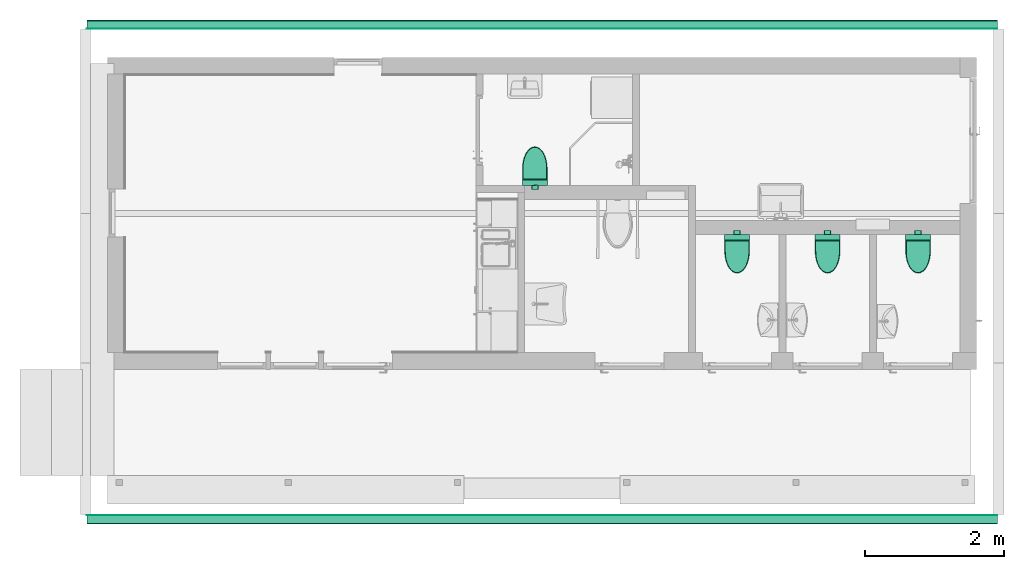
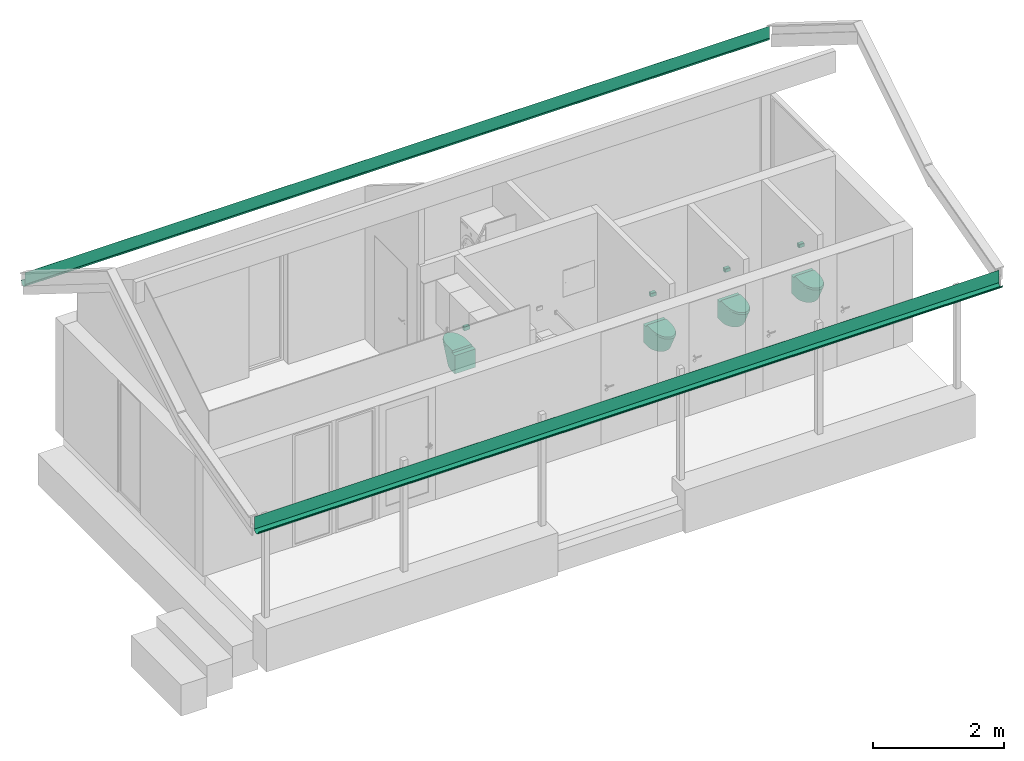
# One storey, part 9 of 15: 4 flow terminals, 2 flow segments.
"""IFC2X3 building model written with IfcOpenShell, lengths in millimetres."""

from ifc_helpers import new_model, entity, si_unit, converted_unit, direction, frame, frame_2d, origin, place, context, subcontext, project, spatial, polyline, circle_curve, parameter, trimmed, segment, composite_curve, rectangle, outline, extrude, faceted_brep, source, transform, mapped, material, material_list, type_object, type_shapes, element, save


model = new_model("IFC2X3")

# Units and contexts
model_context = context("Model", 3, precision=0.01, world=origin(), true_north=direction((0.0, 1.0)))
body_context = subcontext(model_context, "Body", "Model", "MODEL_VIEW")
ifc_project = project(units=[si_unit("LENGTHUNIT", "METRE", prefix="MILLI"), si_unit("AREAUNIT", "SQUARE_METRE"), si_unit("VOLUMEUNIT", "CUBIC_METRE"), converted_unit("PLANEANGLEUNIT", "DEGREE", entity("IfcPlaneAngleMeasure", 0.017453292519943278), si_unit("PLANEANGLEUNIT", "RADIAN"), dimensions=[0, 0, 0, 0, 0, 0, 0])], contexts=[model_context])

# Site, building, storey
site_placement = place(None, origin())
site = spatial("IfcSite", under=ifc_project, at=site_placement, Name="Default", CompositionType="ELEMENT")
building_placement = place(site_placement, origin())
building = spatial("IfcBuilding", under=site, at=building_placement, CompositionType="ELEMENT")
storey_placement = place(building_placement, origin())
storey = spatial("IfcBuildingStorey", under=building, at=storey_placement, Name="Et. 1", CompositionType="ELEMENT", Elevation=0.0)

# Flow segments
pipe_segment_type_1 = type_object("IfcPipeSegmentType", Name="Gutter:Takrenne", PredefinedType="GUTTER")
flow_segment_1_placement = place(storey_placement, origin())
element("IfcFlowSegment", 1, at=flow_segment_1_placement, inside=storey, type_object=pipe_segment_type_1, Name="Gutter:Takrenne", context=body_context, shape_type="SweptSolid", body=[
    extrude(outline(composite_curve([segment(trimmed(circle_curve(frame_2d((-72.8778582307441, -1.8825237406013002), x_axis=(1.0, 0.0)), 2.4999999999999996), [parameter(179.99999999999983)], [parameter(331.64696247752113)], True, "PARAMETER"), True, "CONTINUOUS"), segment(polyline([(-70.67776292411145, -3.0697813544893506), (-68.70095687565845, 0.593418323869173)]), True, "CONTINUOUS"), segment(trimmed(circle_curve(frame_2d((-69.21160610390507, 0.5947011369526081), x_axis=(1.0, 0.0)), 0.5106508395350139), [parameter(359.8560663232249)], [parameter(123.43785863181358)], True, "PARAMETER"), True, "CONTINUOUS"), segment(polyline([(-69.49299118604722, 1.0208310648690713), (-71.4697972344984, -2.6423686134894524)]), True, "CONTINUOUS"), segment(trimmed(circle_curve(frame_2d((-72.8778582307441, -1.8825237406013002), x_axis=(1.0, 0.0)), 1.6), [parameter(180.00000000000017)], [parameter(331.6469624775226)], True, "PARAMETER"), False, "CONTINUOUS"), segment(trimmed(circle_curve(frame_2d((-12.877858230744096, -1.8825237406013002), x_axis=(1.0, 0.0)), 61.60000000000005), [parameter(0.03576087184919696)], [parameter(180.00000000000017)], True, "PARAMETER"), False, "CONTINUOUS"), segment(trimmed(circle_curve(frame_2d((55.37835431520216, -2.3957534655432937), x_axis=(1.0, 0.0)), 6.679047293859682), [parameter(175.2620759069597)], [parameter(84.87546030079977)], True, "PARAMETER"), True, "CONTINUOUS"), segment(trimmed(circle_curve(frame_2d((55.794272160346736, 2.3669582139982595), x_axis=(1.0, 0.0)), 1.8982552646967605), [parameter(84.53878456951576)], [parameter(215.5941888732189)], True, "PARAMETER"), True, "CONTINUOUS"), segment(polyline([(54.25068729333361, 1.2620967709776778), (55.0540746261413, 0.13969672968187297)]), True, "CONTINUOUS"), segment(trimmed(circle_curve(frame_2d((55.24204362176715, 0.5967964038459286), x_axis=(1.0, 0.0)), 0.494239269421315), [parameter(247.6465048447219)], [parameter(22.35349515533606)], True, "PARAMETER"), True, "CONTINUOUS"), segment(polyline([(55.69914329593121, 0.7847653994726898), (54.98253111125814, 1.7859332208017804)]), True, "CONTINUOUS"), segment(trimmed(circle_curve(frame_2d((55.794272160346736, 2.3669582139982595), x_axis=(1.0, 0.0)), 0.9982552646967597), [parameter(84.40581112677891)], [parameter(215.59418887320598)], True, "PARAMETER"), False, "CONTINUOUS"), segment(trimmed(circle_curve(frame_2d((55.37835431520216, -2.3957534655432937), x_axis=(1.0, 0.0)), 5.77904729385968), [parameter(174.9049233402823)], [parameter(84.90492334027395)], True, "PARAMETER"), False, "CONTINUOUS"), segment(trimmed(circle_curve(frame_2d((-12.877858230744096, -1.8825237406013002), x_axis=(1.0, 0.0)), 62.500000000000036), [parameter(2.544443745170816e-13)], [parameter(180.00000000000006)], True, "PARAMETER"), True, "CONTINUOUS")], self_intersect=False)), frame((11010.567419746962, 9451.912403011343, 2269.405853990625), z_axis=(1.0, 0.0, 0.0), x_axis=(0.0, -1.0, 0.0)), (0.0, 0.0, 1.0), 13080.000000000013),
    extrude(outline(composite_curve([segment(trimmed(circle_curve(frame_2d((-12.877858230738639, 1.8825237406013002), x_axis=(1.0, 0.0)), 62.500000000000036), [parameter(179.9999999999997)], [parameter(0.0)], True, "PARAMETER"), True, "CONTINUOUS"), segment(trimmed(circle_curve(frame_2d((55.3783543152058, 2.395753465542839), x_axis=(1.0, 0.0)), 5.77904729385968), [parameter(275.09507665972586)], [parameter(185.09507665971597)], True, "PARAMETER"), False, "CONTINUOUS"), segment(trimmed(circle_curve(frame_2d((55.794272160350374, -2.366958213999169), x_axis=(1.0, 0.0)), 0.9982552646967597), [parameter(144.40581112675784)], [parameter(275.594188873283)], True, "PARAMETER"), False, "CONTINUOUS"), segment(polyline([(54.98253111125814, -1.78593322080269), (55.69914329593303, -0.7847653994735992)]), True, "CONTINUOUS"), segment(trimmed(circle_curve(frame_2d((55.24204362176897, -0.5967964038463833), x_axis=(1.0, 0.0)), 0.494239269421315), [parameter(337.6465048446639)], [parameter(112.35349515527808)], True, "PARAMETER"), True, "CONTINUOUS"), segment(polyline([(55.05407462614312, -0.1396967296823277), (54.25068729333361, -1.2620967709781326)]), True, "CONTINUOUS"), segment(trimmed(circle_curve(frame_2d((55.794272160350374, -2.366958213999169), x_axis=(1.0, 0.0)), 1.8982552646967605), [parameter(144.40581112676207)], [parameter(275.4612154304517)], True, "PARAMETER"), True, "CONTINUOUS"), segment(trimmed(circle_curve(frame_2d((55.3783543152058, 2.395753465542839), x_axis=(1.0, 0.0)), 6.679047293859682), [parameter(275.1245396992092)], [parameter(184.7379240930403)], True, "PARAMETER"), True, "CONTINUOUS"), segment(trimmed(circle_curve(frame_2d((-12.877858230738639, 1.8825237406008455), x_axis=(1.0, 0.0)), 61.60000000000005), [parameter(179.99999999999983)], [parameter(359.96423912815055)], True, "PARAMETER"), False, "CONTINUOUS"), segment(trimmed(circle_curve(frame_2d((-72.87785823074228, 1.8825237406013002), x_axis=(1.0, 0.0)), 1.6), [parameter(28.353037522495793)], [parameter(179.99999999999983)], True, "PARAMETER"), False, "CONTINUOUS"), segment(polyline([(-71.46979723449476, 2.6423686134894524), (-69.4929911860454, -1.020831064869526)]), True, "CONTINUOUS"), segment(trimmed(circle_curve(frame_2d((-69.21160610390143, -0.5947011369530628), x_axis=(1.0, 0.0)), 0.5106508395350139), [parameter(236.56214136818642)], [parameter(0.14393367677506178)], True, "PARAMETER"), True, "CONTINUOUS"), segment(polyline([(-68.70095687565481, -0.593418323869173), (-70.67776292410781, 3.069781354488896)]), True, "CONTINUOUS"), segment(trimmed(circle_curve(frame_2d((-72.87785823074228, 1.8825237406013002), x_axis=(1.0, 0.0)), 2.4999999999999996), [parameter(28.35303752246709)], [parameter(180.00000000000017)], True, "PARAMETER"), True, "CONTINUOUS")], self_intersect=False)), frame((11010.567419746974, 16569.468119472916, 2566.9232565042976), z_axis=(1.0, 0.0, 0.0), x_axis=(0.0, 1.0, 0.0)), (0.0, 0.0, 1.0), 13080.000000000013),
])
pipe_segment_type_2 = type_object("IfcPipeSegmentType", Name="Gutter:Takrenne beslag", PredefinedType="GUTTER")
flow_segment_2_placement = place(storey_placement, origin())
element("IfcFlowSegment", 2, at=flow_segment_2_placement, inside=storey, type_object=pipe_segment_type_2, Name="Gutter:Takrenne beslag", context=body_context, shape_type="SweptSolid", body=[
    extrude(rectangle(XDim=13080.000000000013, YDim=0.9999999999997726, at=frame_2d((-9.094947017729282e-13, 1.082883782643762e-12), x_axis=(1.0, 0.0))), frame((17550.567419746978, 16503.690261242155, 2558.8057802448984), z_axis=(0.0, 0.0, 1.0), x_axis=(-1.0, 0.0, 0.0)), (0.0, 0.0, 1.0), 230.00000000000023),
    extrude(rectangle(XDim=13080.000000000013, YDim=0.9999999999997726, at=frame_2d((-9.094947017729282e-13, 0.0), x_axis=(1.0, 0.0))), frame((17550.567419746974, 9517.690261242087, 2261.2883777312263)), (0.0, 0.0, 1.0), 229.99999999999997),
])

# Space
space_1_placement = place(storey_placement, frame((16700.567419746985, 14253.190261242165, 0.0)))
space_1 = spatial("IfcSpace", under=storey, at=space_1_placement, Name="106", CompositionType="ELEMENT", InteriorOrExteriorSpace="INTERNAL")

# Flow terminal
ifc_material_1 = material(Name="Focus - VVS - Toalett  lokk")
ifc_material_2 = material(Name="Focus - VVS - Krom")
ifc_material_3 = material(Name="Focus - VVS - Toalett")
ifc_material_list = material_list([ifc_material_1, ifc_material_2, ifc_material_3])
distribution_element_type = type_object("IfcDistributionElementType", Name="Focus-Toalett Veggmontert 2:Sittehøyde 420", material=ifc_material_list)
shared_shape = source(origin(), body_context, "Body", "Brep", [
    faceted_brep([(158.16535474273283, 581.4400283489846, 450.0), (125.0, 587.204444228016, 450.0), (91.83464525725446, 581.4400283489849, 450.0), (59.94381649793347, 564.3683039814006, 450.0), (30.553060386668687, 536.6453279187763, 450.0), (4.791847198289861, 499.33647858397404, 450.0), (-16.349834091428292, 453.87551413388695, 450.0), (-32.05952052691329, 402.0094739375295, 450.0), (-41.73349766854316, 345.7315408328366, 450.0), (-45.0, 287.2044442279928, 450.0), (-45.0, 142.20444422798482, 450.0), (-42.071067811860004, 135.13337641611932, 450.0), (-35.0, 132.2044442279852, 450.0), (285.0, 132.20444422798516, 450.0), (292.0710678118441, 135.13337641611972, 450.0), (295.0, 142.2044442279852, 450.0), (295.0, 287.2044442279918, 450.0), (291.7334976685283, 345.7315408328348, 450.0), (282.0595205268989, 402.0094739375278, 450.0), (266.3498340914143, 453.8755141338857, 450.0), (245.20815280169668, 499.33647858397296, 450.0), (219.4469396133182, 536.6453279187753, 450.0), (190.05618350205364, 564.3683039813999, 450.0), (89.88374203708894, 591.0557339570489, 420.0), (125.0, 597.2044442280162, 420.0), (160.1162579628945, 591.0557339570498, 420.0), (193.88301782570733, 572.8458946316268, 420.0), (225.0026419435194, 543.2747201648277, 420.0), (252.2792206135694, 503.4786142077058, 420.0), (274.664530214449, 454.9869187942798, 420.0), (291.2983158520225, 399.66314258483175, 420.0), (301.5413504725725, 339.63334727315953, 420.0), (305.0, 277.20444422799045, 420.0), (305.0, 127.20444422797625, 420.0), (302.07106781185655, 120.13337641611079, 420.0), (295.0, 117.20444422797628, 420.0), (-45.0, 117.20444422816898, 420.0), (-52.071067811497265, 120.13337641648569, 420.0), (-55.0, 127.2044442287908, 420.0), (-55.0, 277.2044442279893, 420.0), (-51.541350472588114, 339.6333472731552, 420.0), (-41.29831585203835, 399.66314258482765, 420.0), (-24.664530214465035, 454.9869187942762, 420.0), (-2.279220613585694, 503.47861420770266, 420.0), (24.997358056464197, 543.2747201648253, 420.0), (56.11698217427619, 572.8458946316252, 420.0), (-41.699246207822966, 122.15557491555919, 429.9022613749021), (291.69924657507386, 122.15557436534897, 429.9022602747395), (294.7934111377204, 125.92815815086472, 435.0000010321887), (298.2830911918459, 129.10173063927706, 435.0000000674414), (301.699246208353, 132.15557491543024, 429.9022613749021), (300.6984520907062, 281.50599213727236, 432.9046437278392), (236.01882322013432, 521.8376876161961, 434.9999986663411), (260.27682781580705, 478.86636708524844, 434.9999977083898), (142.15299996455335, 590.7117092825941, 435.00000042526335), (175.79981758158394, 578.8559490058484, 434.99999944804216), (292.4645603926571, 372.19269028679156, 434.999996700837), (207.4944277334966, 555.600037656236, 434.9999991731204), (279.33622102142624, 428.3374366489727, 434.9999966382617), (297.03312767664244, 339.04502990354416, 434.9999998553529), (42.50557073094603, 555.6000359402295, 434.9999998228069), (74.20018105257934, 578.8559481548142, 434.99999977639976), (13.981175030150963, 521.8376844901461, 434.9999998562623), (-42.464558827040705, 372.1926938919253, 434.9999999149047), (107.8469998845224, 590.7117094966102, 434.9999997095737), (-47.03312667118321, 339.04503901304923, 435.0000000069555), (-29.33622137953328, 428.3374323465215, 434.9999999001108), (-10.276829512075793, 478.86636202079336, 434.99999988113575), (-50.698452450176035, 281.50599177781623, 432.904642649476), (-51.699246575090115, 132.1555743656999, 429.90226027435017), (-48.77628624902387, 129.9110332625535, 435.0000010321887), (-45.60271359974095, 126.42135304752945, 435.0000000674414)], [[[0, 1, 2, 3, 4, 5, 6, 7, 8, 9, 10, 11, 12, 13, 14, 15, 16, 17, 18, 19, 20, 21, 22]], [[23, 24, 25, 26, 27, 28, 29, 30, 31, 32, 33, 34, 35, 36, 37, 38, 39, 40, 41, 42, 43, 44, 45]], [[13, 12, 46, 36, 35, 47]], [[34, 48, 35]], [[15, 49, 33, 50]], [[48, 13, 47, 35]], [[49, 14, 48]], [[49, 48, 34]], [[13, 48, 14]], [[33, 49, 34]], [[15, 14, 49]], [[32, 51, 16, 15, 50, 33]], [[52, 53, 28]], [[54, 55, 25]], [[31, 30, 56]], [[57, 52, 27]], [[29, 58, 30]], [[59, 31, 56]], [[57, 27, 26]], [[60, 61, 45]], [[52, 28, 27]], [[55, 54, 0]], [[53, 29, 28]], [[62, 60, 44]], [[4, 62, 5]], [[55, 26, 25]], [[55, 57, 26]], [[56, 58, 18]], [[2, 61, 3]], [[56, 18, 17]], [[56, 30, 58]], [[7, 63, 8]], [[56, 17, 59]], [[1, 0, 54]], [[53, 58, 29]], [[53, 19, 58]], [[52, 20, 53]], [[18, 58, 19]], [[51, 32, 59, 16]], [[57, 21, 52]], [[22, 57, 55]], [[32, 31, 59]], [[64, 54, 24]], [[63, 40, 65]], [[60, 45, 44]], [[1, 64, 2]], [[61, 23, 45]], [[62, 44, 43]], [[16, 59, 17]], [[41, 40, 63]], [[66, 67, 42]], [[66, 42, 41]], [[65, 8, 63]], [[67, 43, 42]], [[5, 67, 6]], [[39, 68, 9, 65]], [[9, 8, 65]], [[64, 61, 2]], [[3, 61, 60]], [[20, 52, 21]], [[64, 24, 23]], [[19, 53, 20]], [[1, 54, 64]], [[67, 62, 43]], [[63, 7, 66]], [[24, 54, 25]], [[62, 4, 60]], [[67, 5, 62]], [[3, 60, 4]], [[22, 55, 0]], [[66, 6, 67]], [[61, 64, 23]], [[21, 57, 22]], [[6, 66, 7]], [[39, 65, 40]], [[63, 66, 41]], [[10, 9, 68, 39, 38, 69]], [[37, 70, 38]], [[12, 71, 36, 46]], [[70, 10, 69, 38]], [[71, 11, 70]], [[71, 70, 37]], [[10, 70, 11]], [[36, 71, 37]], [[12, 11, 71]]]),
    faceted_brep([(132.26143426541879, 37.20444422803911, 925.0), (90.0, 37.20444422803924, 925.0), (86.46446609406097, 37.20444422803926, 923.5355339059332), (85.0, 37.204444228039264, 920.0), (85.0, 37.204444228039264, 880.0), (86.46446609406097, 37.20444422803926, 876.4644660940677), (90.0, 37.20444422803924, 875.0), (115.04505360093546, 37.204444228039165, 875.0), (115.04505360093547, 40.20444422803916, 875.0), (90.0, 40.20444422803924, 875.0), (86.46446609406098, 40.20444422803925, 876.4644660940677), (85.0, 40.204444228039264, 880.0), (85.0, 40.204444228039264, 920.0), (86.46446609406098, 40.20444422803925, 923.5355339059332), (90.0, 40.20444422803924, 925.0), (132.2614342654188, 40.20444422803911, 925.0)], [[[0, 1, 2, 3, 4, 5, 6, 7]], [[8, 9, 10, 11, 12, 13, 14, 15]], [[0, 7, 8, 15]], [[1, 0, 15, 14]], [[1, 14, 13, 2]], [[13, 12, 3, 2]], [[4, 3, 12, 11]], [[4, 11, 10, 5]], [[10, 9, 6, 5]], [[7, 6, 9, 8]]]),
    faceted_brep([(160.0, 37.204444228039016, 925.0), (132.2614342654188, 37.20444422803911, 925.0), (115.04505360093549, 37.20444422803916, 875.0), (160.0, 37.204444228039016, 875.0), (163.53553390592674, 37.204444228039, 876.4644660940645), (165.0, 37.204444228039, 880.0), (165.0, 37.204444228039, 920.0), (163.53553390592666, 37.204444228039, 923.5355339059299), (165.0, 42.204444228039, 880.0), (163.53553390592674, 42.204444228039, 876.4644660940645), (160.0, 42.204444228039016, 875.0), (115.04505360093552, 42.204444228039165, 875.0), (132.2614342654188, 42.2044442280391, 925.0), (160.0, 42.204444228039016, 925.0), (163.53553390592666, 42.204444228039, 923.5355339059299), (165.0, 42.204444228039, 920.0)], [[[0, 1, 2, 3, 4, 5, 6, 7]], [[8, 9, 10, 11, 12, 13, 14, 15]], [[2, 1, 12, 11]], [[3, 2, 11, 10]], [[3, 10, 9, 4]], [[9, 8, 5, 4]], [[6, 5, 8, 15]], [[6, 15, 14, 7]], [[14, 13, 0, 7]], [[1, 0, 13, 12]]]),
    faceted_brep([(173.6602540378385, -18.795555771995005, 870.0), (174.6592582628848, -18.795555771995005, 872.4118095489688), (175.0, -18.795555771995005, 875.0), (175.0, -18.795555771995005, 925.0), (174.65925826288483, -18.795555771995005, 927.5881904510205), (173.6602540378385, -18.795555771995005, 930.0), (172.0710678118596, -18.795555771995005, 932.0710678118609), (170.0, -18.795555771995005, 933.6602540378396), (167.58819045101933, -18.795555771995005, 934.659258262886), (165.0, -18.795555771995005, 935.0), (85.0, -18.795555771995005, 935.0), (82.41180954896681, -18.795555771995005, 934.6592582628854), (80.0, -18.795555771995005, 933.6602540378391), (77.92893218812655, -18.795555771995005, 932.0710678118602), (76.33974596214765, -18.795555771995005, 930.0), (75.34074173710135, -18.795555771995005, 927.5881904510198), (75.0, -18.795555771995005, 925.0), (75.0, -18.795555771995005, 875.0), (75.34074173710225, -18.795555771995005, 872.4118095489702), (76.33974596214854, -18.795555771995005, 870.0), (77.92893218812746, -18.795555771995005, 867.9289321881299), (80.0, -18.795555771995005, 866.339745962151), (82.41180954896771, -18.795555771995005, 865.3407417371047), (85.0, -18.795555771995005, 865.0), (165.0, -18.795555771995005, 865.0), (167.58819045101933, -18.795555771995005, 865.3407417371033), (170.0, -18.795555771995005, 866.3397459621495), (172.0710678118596, -18.795555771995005, 867.9289321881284), (175.0, 37.204444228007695, 925.0), (175.0, 37.204444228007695, 875.0), (174.6592582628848, 37.204444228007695, 872.4118095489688), (173.6602540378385, 37.204444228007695, 870.0), (172.0710678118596, 37.204444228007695, 867.9289321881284), (170.0, 37.204444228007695, 866.3397459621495), (167.58819045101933, 37.204444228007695, 865.3407417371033), (165.0, 37.204444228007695, 865.0), (85.0, 37.204444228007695, 865.0), (82.41180954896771, 37.204444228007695, 865.3407417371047), (80.0, 37.204444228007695, 866.339745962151), (77.92893218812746, 37.204444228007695, 867.9289321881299), (76.33974596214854, 37.204444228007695, 870.0), (75.34074173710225, 37.204444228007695, 872.4118095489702), (75.0, 37.204444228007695, 875.0), (75.0, 37.204444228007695, 925.0), (75.34074173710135, 37.204444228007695, 927.5881904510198), (76.33974596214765, 37.204444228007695, 930.0), (77.92893218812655, 37.204444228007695, 932.0710678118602), (80.0, 37.204444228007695, 933.6602540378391), (82.41180954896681, 37.204444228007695, 934.6592582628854), (85.0, 37.204444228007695, 935.0), (165.0, 37.204444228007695, 935.0), (167.58819045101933, 37.204444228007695, 934.659258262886), (170.0, 37.204444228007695, 933.6602540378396), (172.0710678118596, 37.204444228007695, 932.0710678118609), (173.6602540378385, 37.204444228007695, 930.0), (174.65925826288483, 37.204444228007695, 927.5881904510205)], [[[0, 1, 2, 3, 4, 5, 6, 7, 8, 9, 10, 11, 12, 13, 14, 15, 16, 17, 18, 19, 20, 21, 22, 23, 24, 25, 26, 27]], [[28, 29, 30, 31, 32, 33, 34, 35, 36, 37, 38, 39, 40, 41, 42, 43, 44, 45, 46, 47, 48, 49, 50, 51, 52, 53, 54, 55]], [[11, 10, 49, 48]], [[12, 11, 48, 47]], [[47, 46, 13, 12]], [[14, 13, 46, 45]], [[15, 14, 45, 44]], [[43, 16, 15, 44]], [[17, 16, 43, 42]], [[18, 17, 42, 41]], [[19, 18, 41, 40]], [[20, 19, 40, 39]], [[21, 20, 39, 38]], [[22, 21, 38, 37]], [[23, 22, 37, 36]], [[24, 23, 36, 35]], [[25, 24, 35, 34]], [[26, 25, 34, 33]], [[27, 26, 33, 32]], [[0, 27, 32, 31]], [[1, 0, 31, 30]], [[2, 1, 30, 29]], [[3, 2, 29, 28]], [[4, 3, 28, 55]], [[5, 4, 55, 54]], [[6, 5, 54, 53]], [[51, 50, 9, 8]], [[7, 52, 51, 8]], [[7, 6, 53, 52]], [[10, 9, 50, 49]]]),
    faceted_brep([(-55.0, 37.204444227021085, 420.0), (305.0, 37.204444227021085, 420.0), (305.0, 277.2044442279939, 420.0), (301.54135047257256, 339.63334727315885, 420.0), (291.298315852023, 399.66314258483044, 420.0), (274.66453021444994, 454.98691879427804, 420.0), (252.27922061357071, 503.47861420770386, 420.0), (225.00264194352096, 543.274720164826, 420.0), (193.88301782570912, 572.8458946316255, 420.0), (160.11625796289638, 591.0557339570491, 420.0), (125.0, 597.2044442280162, 420.0), (89.8837420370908, 591.0557339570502, 420.0), (56.11698217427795, 572.8458946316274, 420.0), (24.99735805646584, 543.2747201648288, 420.0), (-2.2792206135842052, 503.47861420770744, 420.0), (-24.664530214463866, 454.9869187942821, 420.0), (-41.29831585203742, 399.66314258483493, 420.0), (-51.54135047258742, 339.63334727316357, 420.0), (-55.0, 277.2044442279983, 420.0), (305.0, 173.87111089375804, 80.0), (305.0, 37.20444422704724, 80.0), (-55.0, 37.20444422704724, 80.0), (-55.0, 173.87111089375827, 80.0), (-50.48702419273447, 226.5343985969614, 80.0), (-43.83071020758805, 251.5456638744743, 80.0), (-37.174396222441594, 276.5569291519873, 80.0), (-15.729666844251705, 321.43036400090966, 80.0), (-1.47891558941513, 340.1674628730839, 80.0), (12.771835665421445, 358.9045617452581, 80.0), (29.836381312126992, 373.0024856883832, 80.0), (46.90092695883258, 387.1004096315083, 80.0), (84.94623188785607, 404.6040501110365, 80.0), (125.0, 410.53777756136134, 80.0), (165.0537681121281, 404.604050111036, 80.0), (203.09907304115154, 387.10040963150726, 80.0), (220.16361868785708, 373.00248568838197, 80.0), (237.2281643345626, 358.9045617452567, 80.0), (265.7296668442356, 321.4303640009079, 80.0), (276.45203153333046, 298.99364657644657, 80.0), (287.17439622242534, 276.5569291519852, 80.0), (300.487024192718, 226.5343985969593, 80.0), (-55.0, 214.81981503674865, 214.73444588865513), (305.0, 214.81980620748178, 214.73441683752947), (142.64308520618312, 502.53085976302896, 249.99999988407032), (165.2016458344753, 498.063834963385, 252.2537765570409), (-53.22471366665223, 259.17618569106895, 234.16539551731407), (297.24925942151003, 311.1181298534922, 262.75614720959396), (302.72964933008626, 266.9357272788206, 242.21137305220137), (289.15436960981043, 339.97074652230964, 250.60327077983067), (212.06939948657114, 474.652681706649, 260.63012544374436), (37.930600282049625, 474.6526811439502, 260.63012474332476), (17.908043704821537, 450.6371595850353, 252.76794334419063), (271.8009559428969, 383.75824476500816, 243.62192501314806), (255.74922917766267, 408.6838906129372, 232.74850122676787), (60.54795906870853, 476.60500850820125, 233.46097945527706), (84.79835390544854, 498.06383493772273, 252.2537766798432), (189.45204101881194, 476.6050085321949, 233.46097959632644), (107.3569147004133, 502.5308598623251, 250.00000009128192), (232.09195562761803, 450.6371596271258, 252.76794189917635), (-47.965117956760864, 306.5423258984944, 260.630124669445), (-9.215589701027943, 411.0042417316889, 250.0000000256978), (-24.459992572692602, 372.6241439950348, 231.79449951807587), (-36.39790067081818, 353.5023098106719, 261.4879787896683)], [[[0, 1, 2, 3, 4, 5, 6, 7, 8, 9, 10, 11, 12, 13, 14, 15, 16, 17, 18]], [[19, 20, 21, 22, 23, 24, 25, 26, 27, 28, 29, 30, 31, 32, 33, 34, 35, 36, 37, 38, 39, 40]], [[0, 18, 41, 22, 21]], [[0, 21, 20, 1]], [[1, 20, 19, 42, 2]], [[43, 9, 44]], [[45, 22, 41, 18]], [[4, 3, 46]], [[40, 46, 47]], [[39, 48, 46]], [[19, 40, 47]], [[49, 35, 34]], [[50, 51, 13]], [[52, 53, 6]], [[54, 50, 12]], [[52, 38, 37]], [[13, 12, 50]], [[12, 55, 54]], [[33, 44, 56]], [[57, 43, 32]], [[2, 42, 19, 47]], [[9, 8, 44]], [[4, 46, 48]], [[52, 37, 53]], [[55, 57, 31]], [[54, 31, 30]], [[6, 53, 58]], [[47, 46, 3]], [[35, 49, 58]], [[44, 33, 43]], [[12, 11, 55]], [[43, 10, 9]], [[56, 8, 49]], [[33, 32, 43]], [[18, 17, 45]], [[30, 50, 54]], [[33, 56, 34]], [[10, 57, 11]], [[6, 58, 7]], [[50, 29, 51]], [[44, 8, 56]], [[23, 45, 59]], [[35, 58, 36]], [[60, 61, 15]], [[56, 49, 34]], [[27, 51, 28]], [[7, 58, 49]], [[8, 7, 49]], [[32, 31, 57]], [[2, 47, 3]], [[57, 55, 11]], [[48, 39, 38]], [[29, 50, 30]], [[28, 51, 29]], [[52, 6, 5]], [[51, 60, 14]], [[48, 52, 5]], [[15, 61, 62]], [[24, 59, 62]], [[38, 52, 48]], [[17, 59, 45]], [[5, 4, 48]], [[37, 36, 53]], [[10, 43, 57]], [[53, 36, 58]], [[39, 46, 40]], [[31, 54, 55]], [[26, 60, 27]], [[14, 13, 51]], [[27, 60, 51]], [[61, 60, 26]], [[15, 14, 60]], [[26, 25, 61]], [[61, 25, 62]], [[23, 59, 24]], [[17, 16, 59]], [[59, 16, 62]], [[22, 45, 23]], [[62, 25, 24]], [[15, 62, 16]]]),
])
type_shapes(distribution_element_type, [shared_shape])
flow_terminal_1_placement = place(space_1_placement, frame((620.0, -37.20444422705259, 0.0)))
element("IfcFlowTerminal", 3, at=flow_terminal_1_placement, inside=space_1, type_object=distribution_element_type, material=ifc_material_list, Name="Focus-Toalett Veggmontert 2:Sittehøyde 420", context=body_context, shape_type="MappedRepresentation", body=[
    mapped(shared_shape, transform((0.0, 0.0, 0.0), scale=1.0)),
])

# Space
space_2_placement = place(storey_placement, frame((22350.567419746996, 11853.190261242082, 0.0)))
space_2 = spatial("IfcSpace", under=storey, at=space_2_placement, Name="101", CompositionType="ELEMENT", InteriorOrExteriorSpace="INTERNAL")

# Flow terminal
flow_terminal_2_placement = place(space_2_placement, frame((725.0, 1737.2044442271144, 0.0), z_axis=(0.0, 0.0, 1.0), x_axis=(-1.0, 0.0, 0.0)))
element("IfcFlowTerminal", 4, at=flow_terminal_2_placement, inside=space_2, type_object=distribution_element_type, material=ifc_material_list, Name="Focus-Toalett Veggmontert 2:Sittehøyde 420", context=body_context, shape_type="MappedRepresentation", body=[
    mapped(shared_shape, transform((0.0, 0.0, 0.0), scale=1.0)),
])

# Space
space_3_placement = place(storey_placement, frame((21050.567419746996, 11853.190261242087, 0.0)))
space_3 = spatial("IfcSpace", under=storey, at=space_3_placement, Name="102", CompositionType="ELEMENT", InteriorOrExteriorSpace="INTERNAL")

# Flow terminal
flow_terminal_3_placement = place(space_3_placement, frame((725.0, 1737.2044442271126, 0.0), z_axis=(0.0, 0.0, 1.0), x_axis=(-1.0, 0.0, 0.0)))
element("IfcFlowTerminal", 5, at=flow_terminal_3_placement, inside=space_3, type_object=distribution_element_type, material=ifc_material_list, Name="Focus-Toalett Veggmontert 2:Sittehøyde 420", context=body_context, shape_type="MappedRepresentation", body=[
    mapped(shared_shape, transform((0.0, 0.0, 0.0), scale=1.0)),
])

# Space
space_4_placement = place(storey_placement, frame((19750.567419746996, 11853.19026124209, 0.0)))
space_4 = spatial("IfcSpace", under=storey, at=space_4_placement, Name="103", CompositionType="ELEMENT", InteriorOrExteriorSpace="INTERNAL")

# Flow terminal
flow_terminal_4_placement = place(space_4_placement, frame((725.0, 1737.2044442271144, 0.0), z_axis=(0.0, 0.0, 1.0), x_axis=(-1.0, 0.0, 0.0)))
element("IfcFlowTerminal", 6, at=flow_terminal_4_placement, inside=space_4, type_object=distribution_element_type, material=ifc_material_list, Name="Focus-Toalett Veggmontert 2:Sittehøyde 420", context=body_context, shape_type="MappedRepresentation", body=[
    mapped(shared_shape, transform((0.0, 0.0, 0.0), scale=1.0)),
])

save(model, "model.ifc")
